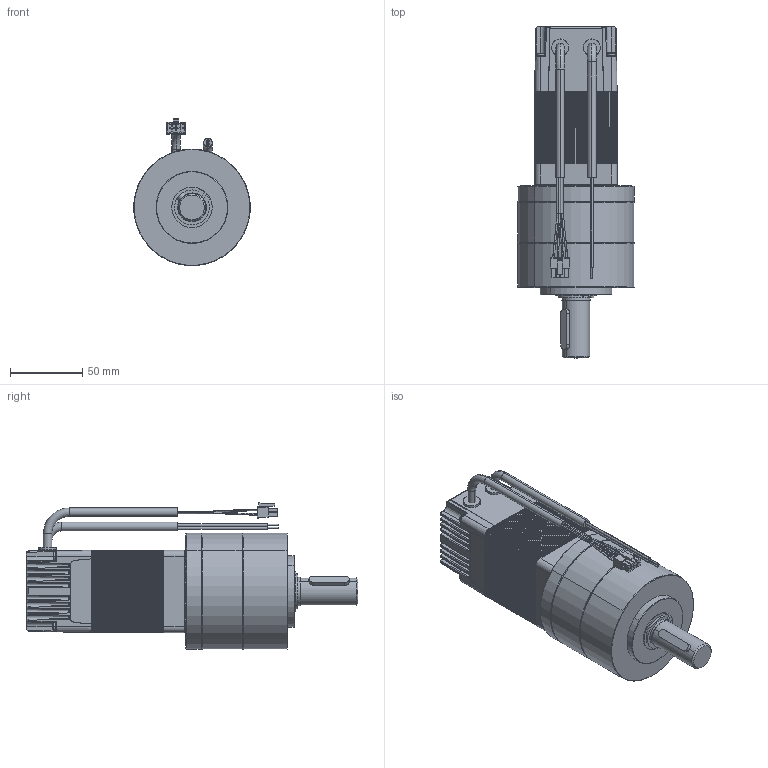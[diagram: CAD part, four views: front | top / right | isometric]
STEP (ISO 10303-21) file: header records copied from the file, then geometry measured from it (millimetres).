
FILE_DESCRIPTION((''),'2;1');
FILE_NAME('ENV_SIMP_STEP_TEMP','2012-10-24T',('VALJBL1'),('CROUZET-AUTOMATISMES'),'PRO/ENGINEER BY PARAMETRIC TECHNOLOGY CORPORATION, 2012090','PRO/ENGINEER BY PARAMETRIC TECHNOLOGY CORPORATION, 2012090','');
FILE_SCHEMA(('CONFIG_CONTROL_DESIGN'));
Products named in the file (1): ENV_SIMP_STEP_TEMP
Bounding box: 80.69 x 230.45 x 102.06 mm (x, y, z)
Surface area: 91998.4 mm2 (no closed solid volume)
Topology: 0 solids, 146 shells, 1926 faces, 5501 edges, 3600 vertices
Faces by surface type: plane 946, cylinder 812, sphere 48, bspline 42, cone 40, torus 38
Entity records: 62877 total; most frequent: CARTESIAN_POINT 14429, DIRECTION 10830, ORIENTED_EDGE 7931, EDGE_CURVE 5501, VECTOR 3660, LINE 3660, VERTEX_POINT 3600, AXIS2_PLACEMENT_3D 3585
